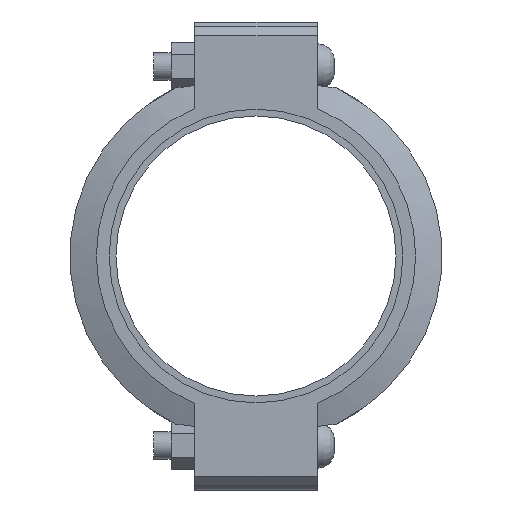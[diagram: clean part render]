
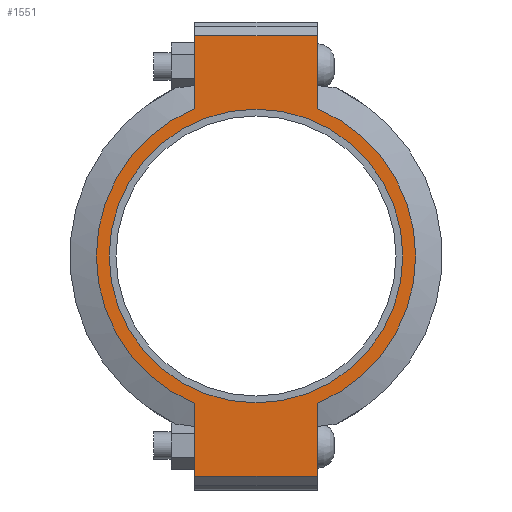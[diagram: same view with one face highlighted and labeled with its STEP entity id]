
A CAD part, left-side view. The second image highlights one B-rep face of the part: STEP entity #1551.
In plain terms, the highlighted planar face has unit normal (-1, 0, 0) as drawn and (0, 0, 1) by its records, which use the part's own axes.
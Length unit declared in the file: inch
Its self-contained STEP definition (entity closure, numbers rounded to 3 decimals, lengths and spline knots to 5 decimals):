
#178=LINE('',#2645,#265);
#189=LINE('',#2696,#276);
#195=LINE('',#2722,#282);
#197=LINE('',#2725,#284);
#198=LINE('',#2730,#285);
#199=LINE('',#2731,#286);
#265=VECTOR('',#2135,0.3937);
#276=VECTOR('',#2166,0.3937);
#282=VECTOR('',#2184,0.3937);
#284=VECTOR('',#2188,0.3937);
#285=VECTOR('',#2193,0.3937);
#286=VECTOR('',#2194,0.3937);
#344=FACE_BOUND('',#503,.T.);
#404=FACE_OUTER_BOUND('',#502,.T.);
#502=EDGE_LOOP('',(#1240,#1241,#1242,#1243,#1244,#1245,#1246,#1247));
#503=EDGE_LOOP('',(#1248));
#608=CIRCLE('',#1796,5.845);
#609=CIRCLE('',#1797,5.845);
#610=CIRCLE('',#1798,5.375);
#717=VERTEX_POINT('',#2642);
#718=VERTEX_POINT('',#2644);
#735=VERTEX_POINT('',#2691);
#736=VERTEX_POINT('',#2695);
#743=VERTEX_POINT('',#2717);
#744=VERTEX_POINT('',#2721);
#745=VERTEX_POINT('',#2727);
#746=VERTEX_POINT('',#2729);
#747=VERTEX_POINT('',#2733);
#887=EDGE_CURVE('',#718,#717,#178,.T.);
#908=EDGE_CURVE('',#736,#735,#189,.T.);
#919=EDGE_CURVE('',#744,#743,#195,.T.);
#921=EDGE_CURVE('',#744,#717,#197,.T.);
#922=EDGE_CURVE('',#743,#745,#608,.T.);
#923=EDGE_CURVE('',#745,#746,#198,.T.);
#924=EDGE_CURVE('',#736,#746,#199,.T.);
#925=EDGE_CURVE('',#735,#718,#609,.T.);
#926=EDGE_CURVE('',#747,#747,#610,.T.);
#1240=ORIENTED_EDGE('',*,*,#921,.F.);
#1241=ORIENTED_EDGE('',*,*,#919,.T.);
#1242=ORIENTED_EDGE('',*,*,#922,.T.);
#1243=ORIENTED_EDGE('',*,*,#923,.T.);
#1244=ORIENTED_EDGE('',*,*,#924,.F.);
#1245=ORIENTED_EDGE('',*,*,#908,.T.);
#1246=ORIENTED_EDGE('',*,*,#925,.T.);
#1247=ORIENTED_EDGE('',*,*,#887,.T.);
#1248=ORIENTED_EDGE('',*,*,#926,.T.);
#1403=PLANE('',#1795);
#1551=ADVANCED_FACE('',(#404,#344),#1403,.T.);
#1795=AXIS2_PLACEMENT_3D('',#2726,#2189,#2190);
#1796=AXIS2_PLACEMENT_3D('',#2728,#2191,#2192);
#1797=AXIS2_PLACEMENT_3D('',#2732,#2195,#2196);
#1798=AXIS2_PLACEMENT_3D('',#2734,#2197,#2198);
#2135=DIRECTION('',(-1.,0.,0.));
#2166=DIRECTION('',(-1.,0.,0.));
#2184=DIRECTION('',(1.,0.,0.));
#2188=DIRECTION('',(0.,1.,0.));
#2189=DIRECTION('center_axis',(0.,0.,1.));
#2190=DIRECTION('ref_axis',(1.,0.,0.));
#2191=DIRECTION('center_axis',(0.,0.,1.));
#2192=DIRECTION('ref_axis',(-1.,0.,0.));
#2193=DIRECTION('',(1.,0.,0.));
#2194=DIRECTION('',(0.,-1.,0.));
#2195=DIRECTION('center_axis',(0.,0.,1.));
#2196=DIRECTION('ref_axis',(-1.,0.,0.));
#2197=DIRECTION('center_axis',(0.,0.,-1.));
#2198=DIRECTION('ref_axis',(-1.,0.,0.));
#2642=CARTESIAN_POINT('',(-8.065,2.25,1.315));
#2644=CARTESIAN_POINT('',(-5.39458,2.25,1.315));
#2645=CARTESIAN_POINT('',(8.565,2.25,1.315));
#2691=CARTESIAN_POINT('',(5.39458,2.25,1.315));
#2695=CARTESIAN_POINT('',(8.065,2.25,1.315));
#2696=CARTESIAN_POINT('',(8.565,2.25,1.315));
#2717=CARTESIAN_POINT('',(-5.39458,-2.25,1.315));
#2721=CARTESIAN_POINT('',(-8.065,-2.25,1.315));
#2722=CARTESIAN_POINT('',(-8.565,-2.25,1.315));
#2725=CARTESIAN_POINT('',(-8.065,1.125,1.315));
#2726=CARTESIAN_POINT('Origin',(0.,0.,
1.315));
#2727=CARTESIAN_POINT('',(5.39458,-2.25,1.315));
#2728=CARTESIAN_POINT('Origin',(0.,0.,1.315));
#2729=CARTESIAN_POINT('',(8.065,-2.25,1.315));
#2730=CARTESIAN_POINT('',(-8.565,-2.25,1.315));
#2731=CARTESIAN_POINT('',(8.065,-1.125,1.315));
#2732=CARTESIAN_POINT('Origin',(0.,0.,1.315));
#2733=CARTESIAN_POINT('',(5.375,0.,1.315));
#2734=CARTESIAN_POINT('Origin',(0.,0.,1.315));
